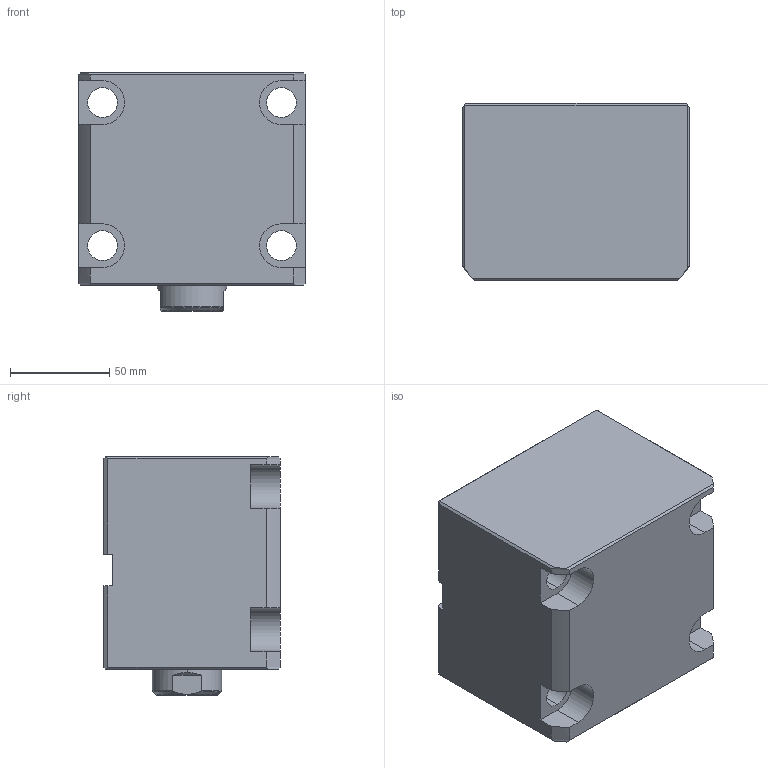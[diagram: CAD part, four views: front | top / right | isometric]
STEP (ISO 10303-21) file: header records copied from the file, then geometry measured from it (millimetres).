
FILE_DESCRIPTION (( 'STEP AP214' ), '1' );
FILE_NAME ('chtb-lam63x40n_asm.STEP', '2018-05-22T02:55:17', ( 'Windows' ), ( 'Microsoft' ), 'SwSTEP 2.0', 'SolidWorks 2015', '' );
FILE_SCHEMA (( 'AUTOMOTIVE_DESIGN' ));
Length unit declared in the file: millimetre
Products named in the file (4): CHTB-LAM63X40NBT; CHTB63X40NHSG; CHTB-63QG; chtb-lam63x40n_asm
Assembly tree (3 placements, depth 2):
  chtb-lam63x40n_asm
    CHTB-63QG
    CHTB63X40NHSG
    CHTB-LAM63X40NBT
Bounding box: 114 x 89 x 120 mm (x, y, z)
Volume: 910492.1 mm3; surface area: 138685.9 mm2
Topology: 3 solids, 3 shells, 176 faces, 524 edges, 356 vertices
Faces by surface type: cylinder 96, plane 51, bspline 13, cone 8, torus 8
Entity records: 18805 total; most frequent: CARTESIAN_POINT 14319, ORIENTED_EDGE 1036, DIRECTION 751, EDGE_CURVE 518, VERTEX_POINT 356, AXIS2_PLACEMENT_3D 277, EDGE_LOOP 198, VECTOR 197
